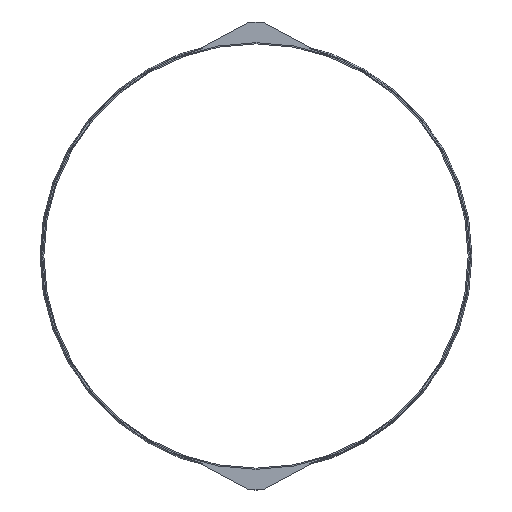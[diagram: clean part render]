
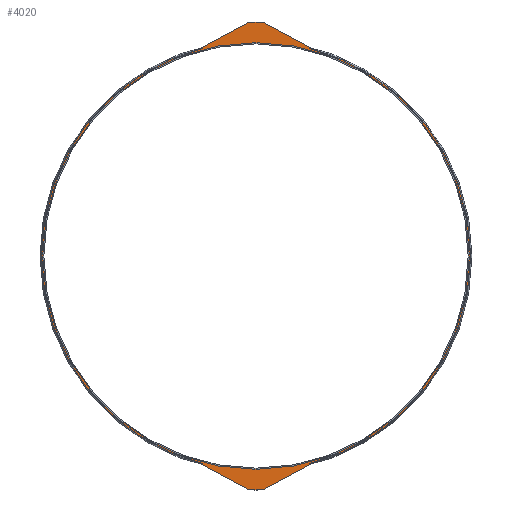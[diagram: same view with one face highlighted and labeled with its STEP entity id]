
A CAD part, left-side view. The second image highlights one B-rep face of the part: STEP entity #4020.
In plain terms, the highlighted planar face has unit normal (-1, 0, 0).
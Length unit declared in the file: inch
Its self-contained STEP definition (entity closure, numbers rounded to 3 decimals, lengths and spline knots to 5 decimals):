
#126=FACE_BOUND('',#694,.T.);
#260=PLANE('',#4387);
#463=FACE_OUTER_BOUND('',#693,.T.);
#693=EDGE_LOOP('',(#3552,#3553,#3554,#3555,#3556,#3557,#3558,#3559,#3560,
#3561,#3562,#3563,#3564,#3565,#3566,#3567,#3568,#3569,#3570,#3571));
#694=EDGE_LOOP('',(#3572,#3573));
#815=LINE('',#5799,#1188);
#819=LINE('',#5811,#1192);
#823=LINE('',#5823,#1196);
#827=LINE('',#5835,#1200);
#829=LINE('',#5840,#1202);
#1010=LINE('',#6563,#1383);
#1014=LINE('',#6575,#1387);
#1018=LINE('',#6587,#1391);
#1022=LINE('',#6597,#1395);
#1025=LINE('',#6603,#1398);
#1188=VECTOR('',#4689,0.3937);
#1192=VECTOR('',#4701,0.3937);
#1196=VECTOR('',#4713,0.3937);
#1200=VECTOR('',#4725,0.3937);
#1202=VECTOR('',#4729,0.3937);
#1383=VECTOR('',#5210,0.3937);
#1387=VECTOR('',#5222,0.3937);
#1391=VECTOR('',#5234,0.3937);
#1395=VECTOR('',#5246,0.3937);
#1398=VECTOR('',#5251,0.3937);
#1463=CIRCLE('',#4122,0.063);
#1465=CIRCLE('',#4126,0.125);
#1467=CIRCLE('',#4130,0.125);
#1469=CIRCLE('',#4134,0.063);
#1474=CIRCLE('',#4143,72.375);
#1523=CIRCLE('',#4285,0.063);
#1525=CIRCLE('',#4289,0.125);
#1527=CIRCLE('',#4293,0.125);
#1529=CIRCLE('',#4297,0.063);
#1531=CIRCLE('',#4303,72.375);
#1583=CIRCLE('',#4385,72.);
#1584=CIRCLE('',#4386,72.);
#1680=VERTEX_POINT('',#5789);
#1681=VERTEX_POINT('',#5791);
#1683=VERTEX_POINT('',#5797);
#1685=VERTEX_POINT('',#5803);
#1687=VERTEX_POINT('',#5809);
#1689=VERTEX_POINT('',#5815);
#1691=VERTEX_POINT('',#5821);
#1693=VERTEX_POINT('',#5827);
#1695=VERTEX_POINT('',#5833);
#1697=VERTEX_POINT('',#5839);
#1706=VERTEX_POINT('',#5861);
#1870=VERTEX_POINT('',#6554);
#1871=VERTEX_POINT('',#6556);
#1873=VERTEX_POINT('',#6562);
#1875=VERTEX_POINT('',#6568);
#1877=VERTEX_POINT('',#6574);
#1879=VERTEX_POINT('',#6580);
#1881=VERTEX_POINT('',#6586);
#1883=VERTEX_POINT('',#6592);
#1885=VERTEX_POINT('',#6601);
#1949=VERTEX_POINT('',#6793);
#1950=VERTEX_POINT('',#6795);
#2090=EDGE_CURVE('',#1680,#1681,#1463,.T.);
#2094=EDGE_CURVE('',#1683,#1680,#815,.T.);
#2097=EDGE_CURVE('',#1685,#1683,#1465,.T.);
#2100=EDGE_CURVE('',#1687,#1685,#819,.T.);
#2103=EDGE_CURVE('',#1689,#1687,#1467,.T.);
#2106=EDGE_CURVE('',#1691,#1689,#823,.T.);
#2109=EDGE_CURVE('',#1693,#1691,#1469,.T.);
#2112=EDGE_CURVE('',#1695,#1693,#827,.T.);
#2114=EDGE_CURVE('',#1681,#1697,#829,.T.);
#2126=EDGE_CURVE('',#1706,#1695,#1474,.T.);
#2370=EDGE_CURVE('',#1871,#1870,#1523,.T.);
#2373=EDGE_CURVE('',#1873,#1871,#1010,.T.);
#2376=EDGE_CURVE('',#1875,#1873,#1525,.T.);
#2379=EDGE_CURVE('',#1877,#1875,#1014,.T.);
#2382=EDGE_CURVE('',#1879,#1877,#1527,.T.);
#2385=EDGE_CURVE('',#1881,#1879,#1018,.T.);
#2388=EDGE_CURVE('',#1883,#1881,#1529,.T.);
#2391=EDGE_CURVE('',#1706,#1883,#1022,.T.);
#2394=EDGE_CURVE('',#1870,#1885,#1025,.T.);
#2399=EDGE_CURVE('',#1697,#1885,#1531,.T.);
#2490=EDGE_CURVE('',#1950,#1949,#1583,.T.);
#2491=EDGE_CURVE('',#1949,#1950,#1584,.T.);
#3552=ORIENTED_EDGE('',*,*,#2126,.F.);
#3553=ORIENTED_EDGE('',*,*,#2391,.T.);
#3554=ORIENTED_EDGE('',*,*,#2388,.T.);
#3555=ORIENTED_EDGE('',*,*,#2385,.T.);
#3556=ORIENTED_EDGE('',*,*,#2382,.T.);
#3557=ORIENTED_EDGE('',*,*,#2379,.T.);
#3558=ORIENTED_EDGE('',*,*,#2376,.T.);
#3559=ORIENTED_EDGE('',*,*,#2373,.T.);
#3560=ORIENTED_EDGE('',*,*,#2370,.T.);
#3561=ORIENTED_EDGE('',*,*,#2394,.T.);
#3562=ORIENTED_EDGE('',*,*,#2399,.F.);
#3563=ORIENTED_EDGE('',*,*,#2114,.F.);
#3564=ORIENTED_EDGE('',*,*,#2090,.F.);
#3565=ORIENTED_EDGE('',*,*,#2094,.F.);
#3566=ORIENTED_EDGE('',*,*,#2097,.F.);
#3567=ORIENTED_EDGE('',*,*,#2100,.F.);
#3568=ORIENTED_EDGE('',*,*,#2103,.F.);
#3569=ORIENTED_EDGE('',*,*,#2106,.F.);
#3570=ORIENTED_EDGE('',*,*,#2109,.F.);
#3571=ORIENTED_EDGE('',*,*,#2112,.F.);
#3572=ORIENTED_EDGE('',*,*,#2490,.T.);
#3573=ORIENTED_EDGE('',*,*,#2491,.T.);
#4020=ADVANCED_FACE('',(#463,#126),#260,.T.);
#4122=AXIS2_PLACEMENT_3D('',#5792,#4682,#4683);
#4126=AXIS2_PLACEMENT_3D('',#5805,#4695,#4696);
#4130=AXIS2_PLACEMENT_3D('',#5817,#4707,#4708);
#4134=AXIS2_PLACEMENT_3D('',#5829,#4719,#4720);
#4143=AXIS2_PLACEMENT_3D('',#5863,#4749,#4750);
#4285=AXIS2_PLACEMENT_3D('',#6557,#5204,#5205);
#4289=AXIS2_PLACEMENT_3D('',#6569,#5216,#5217);
#4293=AXIS2_PLACEMENT_3D('',#6581,#5228,#5229);
#4297=AXIS2_PLACEMENT_3D('',#6593,#5240,#5241);
#4303=AXIS2_PLACEMENT_3D('',#6613,#5261,#5262);
#4385=AXIS2_PLACEMENT_3D('',#6796,#5464,#5465);
#4386=AXIS2_PLACEMENT_3D('',#6797,#5466,#5467);
#4387=AXIS2_PLACEMENT_3D('',#6798,#5468,#5469);
#4682=DIRECTION('center_axis',(1.,0.,0.));
#4683=DIRECTION('ref_axis',(0.,-1.,0.));
#4689=DIRECTION('',(0.,0.88,0.474));
#4695=DIRECTION('center_axis',(1.,0.,0.));
#4696=DIRECTION('ref_axis',(0.,-0.474,0.88));
#4701=DIRECTION('',(0.,1.,0.));
#4707=DIRECTION('center_axis',(1.,0.,0.));
#4708=DIRECTION('ref_axis',(0.,0.,1.));
#4713=DIRECTION('',(0.,0.88,-0.474));
#4719=DIRECTION('center_axis',(1.,0.,0.));
#4720=DIRECTION('ref_axis',(0.,0.474,0.88));
#4725=DIRECTION('',(0.,0.,-1.));
#4729=DIRECTION('',(0.,0.,1.));
#4749=DIRECTION('center_axis',(1.,0.,0.));
#4750=DIRECTION('ref_axis',(0.,0.,-1.));
#5204=DIRECTION('center_axis',(-1.,0.,0.));
#5205=DIRECTION('ref_axis',(0.,-1.,0.));
#5210=DIRECTION('',(0.,0.88,-0.474));
#5216=DIRECTION('center_axis',(-1.,0.,0.));
#5217=DIRECTION('ref_axis',(0.,-0.474,-0.88));
#5222=DIRECTION('',(0.,1.,0.));
#5228=DIRECTION('center_axis',(-1.,0.,0.));
#5229=DIRECTION('ref_axis',(0.,0.,-1.));
#5234=DIRECTION('',(0.,0.88,0.474));
#5240=DIRECTION('center_axis',(-1.,0.,0.));
#5241=DIRECTION('ref_axis',(0.,0.474,-0.88));
#5246=DIRECTION('',(0.,0.,1.));
#5251=DIRECTION('',(0.,0.,-1.));
#5261=DIRECTION('center_axis',(1.,0.,0.));
#5262=DIRECTION('ref_axis',(0.,0.,-1.));
#5464=DIRECTION('center_axis',(1.,0.,0.));
#5465=DIRECTION('ref_axis',(0.,0.,-1.));
#5466=DIRECTION('center_axis',(1.,0.,0.));
#5467=DIRECTION('ref_axis',(0.,0.,-1.));
#5468=DIRECTION('center_axis',(-1.,0.,0.));
#5469=DIRECTION('ref_axis',(0.,0.,1.));
#5789=CARTESIAN_POINT('',(-6.25,17.96687,-70.49377));
#5791=CARTESIAN_POINT('',(-6.25,18.,-70.4383));
#5792=CARTESIAN_POINT('Origin',(-6.25,17.937,-70.4383));
#5797=CARTESIAN_POINT('',(-6.25,2.42775,-78.86006));
#5799=CARTESIAN_POINT('',(-6.25,2.42775,-78.86006));
#5803=CARTESIAN_POINT('',(-6.25,2.36849,-78.875));
#5805=CARTESIAN_POINT('Origin',(-6.25,2.36849,-78.75));
#5809=CARTESIAN_POINT('',(-6.25,-2.36849,-78.875));
#5811=CARTESIAN_POINT('',(-6.25,0.,-78.875));
#5815=CARTESIAN_POINT('',(-6.25,-2.42775,-78.86006));
#5817=CARTESIAN_POINT('Origin',(-6.25,-2.36849,-78.75));
#5821=CARTESIAN_POINT('',(-6.25,-17.96687,-70.49377));
#5823=CARTESIAN_POINT('',(-6.25,-17.96687,-70.49377));
#5827=CARTESIAN_POINT('',(-6.25,-18.,-70.4383));
#5829=CARTESIAN_POINT('Origin',(-6.25,-17.937,-70.4383));
#5833=CARTESIAN_POINT('',(-6.25,-18.,-70.10093));
#5835=CARTESIAN_POINT('',(-6.25,-18.,-70.10093));
#5839=CARTESIAN_POINT('',(-6.25,18.,-70.10093));
#5840=CARTESIAN_POINT('',(-6.25,18.,-70.4383));
#5861=CARTESIAN_POINT('',(-6.25,-18.,70.10093));
#5863=CARTESIAN_POINT('Origin',(-6.25,0.,0.));
#6554=CARTESIAN_POINT('',(-6.25,18.,70.4383));
#6556=CARTESIAN_POINT('',(-6.25,17.96687,70.49377));
#6557=CARTESIAN_POINT('Origin',(-6.25,17.937,70.4383));
#6562=CARTESIAN_POINT('',(-6.25,2.42775,78.86006));
#6563=CARTESIAN_POINT('',(-6.25,2.42775,78.86006));
#6568=CARTESIAN_POINT('',(-6.25,2.36849,78.875));
#6569=CARTESIAN_POINT('Origin',(-6.25,2.36849,78.75));
#6574=CARTESIAN_POINT('',(-6.25,-2.36849,78.875));
#6575=CARTESIAN_POINT('',(-6.25,0.,78.875));
#6580=CARTESIAN_POINT('',(-6.25,-2.42775,78.86006));
#6581=CARTESIAN_POINT('Origin',(-6.25,-2.36849,78.75));
#6586=CARTESIAN_POINT('',(-6.25,-17.96687,70.49377));
#6587=CARTESIAN_POINT('',(-6.25,-17.96687,70.49377));
#6592=CARTESIAN_POINT('',(-6.25,-18.,70.4383));
#6593=CARTESIAN_POINT('Origin',(-6.25,-17.937,70.4383));
#6597=CARTESIAN_POINT('',(-6.25,-18.,70.10093));
#6601=CARTESIAN_POINT('',(-6.25,18.,70.10093));
#6603=CARTESIAN_POINT('',(-6.25,18.,70.4383));
#6613=CARTESIAN_POINT('Origin',(-6.25,0.,0.));
#6793=CARTESIAN_POINT('',(-6.25,-72.,0.));
#6795=CARTESIAN_POINT('',(-6.25,72.,0.));
#6796=CARTESIAN_POINT('Origin',(-6.25,0.,0.));
#6797=CARTESIAN_POINT('Origin',(-6.25,0.,0.));
#6798=CARTESIAN_POINT('Origin',(-6.25,72.375,0.));
